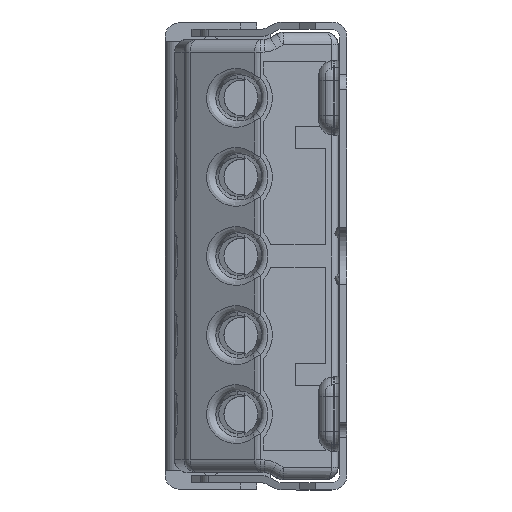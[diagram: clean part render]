
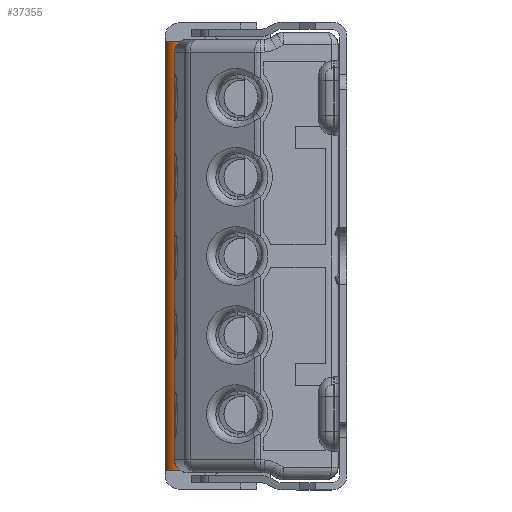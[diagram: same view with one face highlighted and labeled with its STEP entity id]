
A CAD part, left-side view. The second image highlights one B-rep face of the part: STEP entity #37355.
In plain terms, the highlighted cylindrical face has radius 0.9 mm (diameter 1.8 mm), a partial arc.
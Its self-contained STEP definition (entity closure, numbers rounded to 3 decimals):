
#233 = DIRECTION ( 'NONE',  ( 0., 0., 1. ) ) ;
#841 = EDGE_LOOP ( 'NONE', ( #60703, #39798, #29525, #44568 ) ) ;
#2972 = VERTEX_POINT ( 'NONE', #56816 ) ;
#4602 = DIRECTION ( 'NONE',  ( 1., 0., 0. ) ) ;
#5960 = VERTEX_POINT ( 'NONE', #22912 ) ;
#7103 = DIRECTION ( 'NONE',  ( 0., 0., -1. ) ) ;
#10008 = AXIS2_PLACEMENT_3D ( 'NONE', #64781, #19534, #4602 ) ;
#18576 = VECTOR ( 'NONE', #26922, 1000. ) ;
#19534 = DIRECTION ( 'NONE',  ( 0., 0., 1. ) ) ;
#19642 = CYLINDRICAL_SURFACE ( 'NONE', #10008, 0.9 ) ;
#20533 = EDGE_CURVE ( 'NONE', #60917, #39693, #53882, .T. ) ;
#22011 = VECTOR ( 'NONE', #233, 1000. ) ;
#22456 = CARTESIAN_POINT ( 'NONE',  ( -209.445, 17.513, 13.55 ) ) ;
#22483 = CARTESIAN_POINT ( 'NONE',  ( -209.445, 16.613, -13.55 ) ) ;
#22912 = CARTESIAN_POINT ( 'NONE',  ( -209.445, 17.513, -13.55 ) ) ;
#26922 = DIRECTION ( 'NONE',  ( 0., 0., 1. ) ) ;
#27540 = DIRECTION ( 'NONE',  ( 1., 0., 0. ) ) ;
#28553 = CIRCLE ( 'NONE', #46464, 0.9 ) ;
#29525 = ORIENTED_EDGE ( 'NONE', *, *, #60429, .T. ) ;
#34127 = EDGE_CURVE ( 'NONE', #5960, #2972, #28553, .T. ) ;
#34603 = FACE_OUTER_BOUND ( 'NONE', #841, .T. ) ;
#35392 = CARTESIAN_POINT ( 'NONE',  ( -210.345, 16.613, 13.55 ) ) ;
#37192 = CARTESIAN_POINT ( 'NONE',  ( -209.445, 16.613, 13.55 ) ) ;
#37355 = ADVANCED_FACE ( 'NONE', ( #34603 ), #19642, .T. ) ;
#39693 = VERTEX_POINT ( 'NONE', #22456 ) ;
#39798 = ORIENTED_EDGE ( 'NONE', *, *, #34127, .T. ) ;
#42161 = LINE ( 'NONE', #51959, #18576 ) ;
#42247 = DIRECTION ( 'NONE',  ( -1., 0., 0. ) ) ;
#44568 = ORIENTED_EDGE ( 'NONE', *, *, #20533, .T. ) ;
#46464 = AXIS2_PLACEMENT_3D ( 'NONE', #22483, #57598, #27540 ) ;
#49589 = CARTESIAN_POINT ( 'NONE',  ( -210.345, 16.613, 13.55 ) ) ;
#49768 = AXIS2_PLACEMENT_3D ( 'NONE', #37192, #7103, #42247 ) ;
#51959 = CARTESIAN_POINT ( 'NONE',  ( -209.445, 17.513, -13.55 ) ) ;
#53882 = CIRCLE ( 'NONE', #49768, 0.9 ) ;
#55764 = EDGE_CURVE ( 'NONE', #5960, #39693, #42161, .T. ) ;
#56816 = CARTESIAN_POINT ( 'NONE',  ( -210.345, 16.613, -13.55 ) ) ;
#57598 = DIRECTION ( 'NONE',  ( 0., 0., 1. ) ) ;
#60429 = EDGE_CURVE ( 'NONE', #2972, #60917, #62073, .T. ) ;
#60703 = ORIENTED_EDGE ( 'NONE', *, *, #55764, .F. ) ;
#60917 = VERTEX_POINT ( 'NONE', #49589 ) ;
#62073 = LINE ( 'NONE', #35392, #22011 ) ;
#64781 = CARTESIAN_POINT ( 'NONE',  ( -209.445, 16.613, -27.125 ) ) ;
